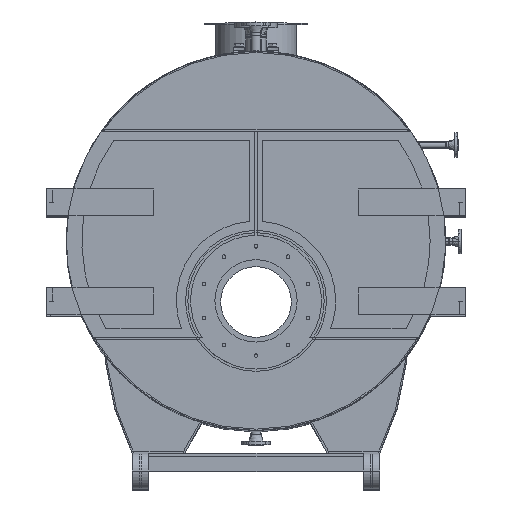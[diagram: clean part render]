
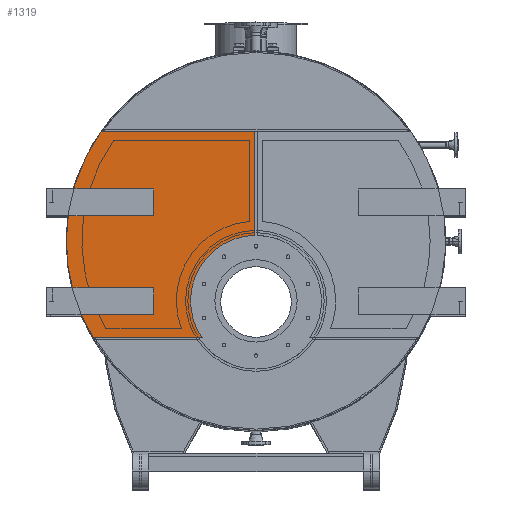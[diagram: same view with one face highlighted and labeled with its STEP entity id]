
A CAD part, top view. The second image highlights one B-rep face of the part: STEP entity #1319.
In plain terms, the highlighted planar face has unit normal (0, 0, 1) as drawn and (0, 0, -1) by its records, which use the part's own axes.
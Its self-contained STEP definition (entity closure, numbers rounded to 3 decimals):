
#525 = CIRCLE ( 'NONE', #29256, 291. ) ;
#697 = EDGE_LOOP ( 'NONE', ( #10735, #25978, #18834, #39740, #25635, #3579, #21658 ) ) ;
#1319 = ADVANCED_FACE ( 'NONE', ( #40553 ), #20185, .F. ) ;
#2294 = DIRECTION ( 'NONE',  ( 1., 0., 0. ) ) ;
#2465 = DIRECTION ( 'NONE',  ( -1., 0., 0. ) ) ;
#3165 = CARTESIAN_POINT ( 'NONE',  ( -838., 486.5, -10. ) ) ;
#3579 = ORIENTED_EDGE ( 'NONE', *, *, #40923, .F. ) ;
#4190 = AXIS2_PLACEMENT_3D ( 'NONE', #13365, #30254, #10290 ) ;
#5002 = DIRECTION ( 'NONE',  ( 0., -1., 0. ) ) ;
#5812 = DIRECTION ( 'NONE',  ( 0., 0., 1. ) ) ;
#6108 = DIRECTION ( 'NONE',  ( 1., 0., 0. ) ) ;
#7031 = CIRCLE ( 'NONE', #10556, 843. ) ;
#7064 = DIRECTION ( 'NONE',  ( 0., 0., 1. ) ) ;
#8777 = LINE ( 'NONE', #35333, #35338 ) ;
#10290 = DIRECTION ( 'NONE',  ( 1., 0., 0. ) ) ;
#10556 = AXIS2_PLACEMENT_3D ( 'NONE', #25324, #35163, #2294 ) ;
#10735 = ORIENTED_EDGE ( 'NONE', *, *, #32714, .F. ) ;
#12071 = VERTEX_POINT ( 'NONE', #25103 ) ;
#12923 = DIRECTION ( 'NONE',  ( 0., 0., 1. ) ) ;
#13365 = CARTESIAN_POINT ( 'NONE',  ( 0., 0., -10. ) ) ;
#13739 = VECTOR ( 'NONE', #5002, 1000. ) ;
#14146 = EDGE_CURVE ( 'NONE', #36595, #12071, #7031, .T. ) ;
#16157 = CARTESIAN_POINT ( 'NONE',  ( 0., -432.238, -10. ) ) ;
#18773 = VERTEX_POINT ( 'NONE', #19942 ) ;
#18834 = ORIENTED_EDGE ( 'NONE', *, *, #33372, .T. ) ;
#19049 = CARTESIAN_POINT ( 'NONE',  ( -838., 0., -10. ) ) ;
#19474 = CARTESIAN_POINT ( 'NONE',  ( -154.548, 486.5, -10. ) ) ;
#19541 = CARTESIAN_POINT ( 'NONE',  ( -838., 23.957, -10. ) ) ;
#19942 = CARTESIAN_POINT ( 'NONE',  ( -603.464, -432.238, -10. ) ) ;
#19979 = AXIS2_PLACEMENT_3D ( 'NONE', #29508, #5812, #35442 ) ;
#20185 = PLANE ( 'NONE',  #4190 ) ;
#20480 = DIRECTION ( 'NONE',  ( 1., 0., 0. ) ) ;
#21346 = CARTESIAN_POINT ( 'NONE',  ( -843., 0., -10. ) ) ;
#21658 = ORIENTED_EDGE ( 'NONE', *, *, #14146, .F. ) ;
#22367 = CARTESIAN_POINT ( 'NONE',  ( -843., -267., -10. ) ) ;
#23486 = VERTEX_POINT ( 'NONE', #31157 ) ;
#25103 = CARTESIAN_POINT ( 'NONE',  ( 0., 0., -10. ) ) ;
#25324 = CARTESIAN_POINT ( 'NONE',  ( -843., 0., -10. ) ) ;
#25635 = ORIENTED_EDGE ( 'NONE', *, *, #25732, .F. ) ;
#25732 = EDGE_CURVE ( 'NONE', #29099, #31875, #8777, .T. ) ;
#25978 = ORIENTED_EDGE ( 'NONE', *, *, #26232, .T. ) ;
#26048 = DIRECTION ( 'NONE',  ( 1., 0., 0. ) ) ;
#26232 = EDGE_CURVE ( 'NONE', #18773, #23486, #38191, .T. ) ;
#26822 = CARTESIAN_POINT ( 'NONE',  ( -119.246, -432.238, -10. ) ) ;
#27097 = VECTOR ( 'NONE', #26048, 1000. ) ;
#29099 = VERTEX_POINT ( 'NONE', #19474 ) ;
#29256 = AXIS2_PLACEMENT_3D ( 'NONE', #22367, #12923, #6108 ) ;
#29508 = CARTESIAN_POINT ( 'NONE',  ( -843., -267., -10. ) ) ;
#30097 = EDGE_CURVE ( 'NONE', #31875, #42515, #39220, .T. ) ;
#30254 = DIRECTION ( 'NONE',  ( 0., 0., 1. ) ) ;
#31157 = CARTESIAN_POINT ( 'NONE',  ( -552., -267., -10. ) ) ;
#31875 = VERTEX_POINT ( 'NONE', #3165 ) ;
#32714 = EDGE_CURVE ( 'NONE', #18773, #36595, #35677, .T. ) ;
#33372 = EDGE_CURVE ( 'NONE', #23486, #42515, #525, .T. ) ;
#34518 = AXIS2_PLACEMENT_3D ( 'NONE', #21346, #7064, #20480 ) ;
#35163 = DIRECTION ( 'NONE',  ( 0., 0., 1. ) ) ;
#35333 = CARTESIAN_POINT ( 'NONE',  ( 0., 486.5, -10. ) ) ;
#35338 = VECTOR ( 'NONE', #2465, 1000. ) ;
#35442 = DIRECTION ( 'NONE',  ( 1., 0., 0. ) ) ;
#35677 = LINE ( 'NONE', #16157, #27097 ) ;
#36595 = VERTEX_POINT ( 'NONE', #26822 ) ;
#38191 = CIRCLE ( 'NONE', #19979, 291. ) ;
#39220 = LINE ( 'NONE', #19049, #13739 ) ;
#39740 = ORIENTED_EDGE ( 'NONE', *, *, #30097, .F. ) ;
#40553 = FACE_OUTER_BOUND ( 'NONE', #697, .T. ) ;
#40923 = EDGE_CURVE ( 'NONE', #12071, #29099, #41539, .T. ) ;
#41539 = CIRCLE ( 'NONE', #34518, 843. ) ;
#42515 = VERTEX_POINT ( 'NONE', #19541 ) ;
